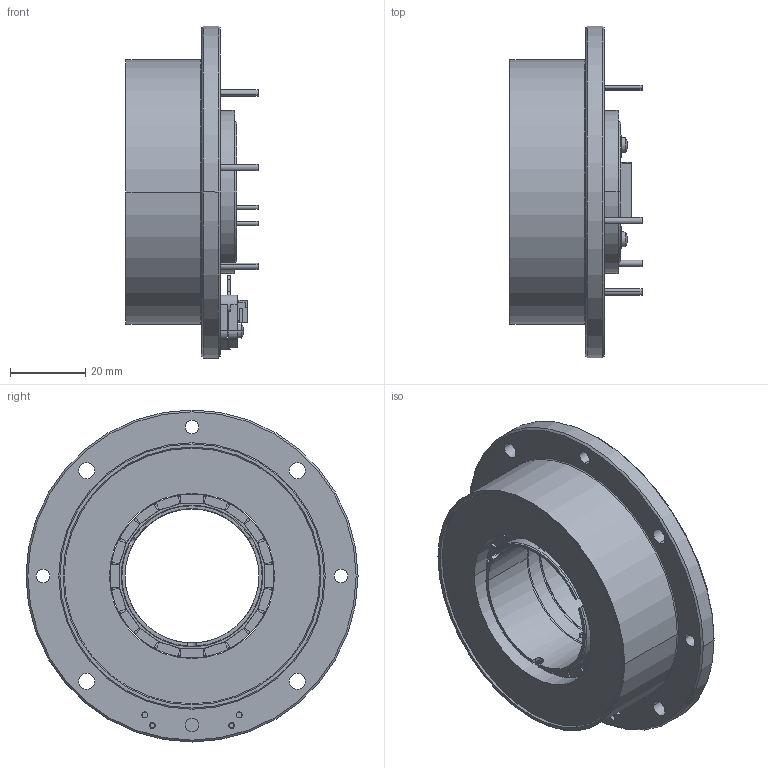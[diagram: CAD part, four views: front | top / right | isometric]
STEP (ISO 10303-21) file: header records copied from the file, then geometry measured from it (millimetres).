
FILE_DESCRIPTION((''),'2;1');
FILE_NAME('RADIALER-STECKERABGAN_SW0001','2024-02-14T13:56:29',('MMAGVISI'),(''),'CREO PARAMETRIC BY PTC INC, 2023092','CREO PARAMETRIC BY PTC INC, 2023092','');
FILE_SCHEMA(('CONFIG_CONTROL_DESIGN','SHAPE_APPEARANCE_LAYERS_GROUPS'));
Length unit declared in the file: millimetre
Products named in the file (1): RADIALER-STECKERABGAN_SW0001
Bounding box: 35 x 88 x 88 mm (x, y, z)
Volume: 77144.6 mm3; surface area: 31254.9 mm2
Topology: 2 solids, 3 shells, 830 faces, 2298 edges, 1478 vertices
Faces by surface type: plane 507, cylinder 207, torus 56, cone 56, sphere 4
Entity records: 35893 total; most frequent: CARTESIAN_POINT 7968, ORIENTED_EDGE 4596, DIRECTION 4046, PRESENTATION_STYLE_ASSIGNMENT 2300, STYLED_ITEM 2300, CURVE_STYLE 2298, EDGE_CURVE 2298, VERTEX_POINT 1478
